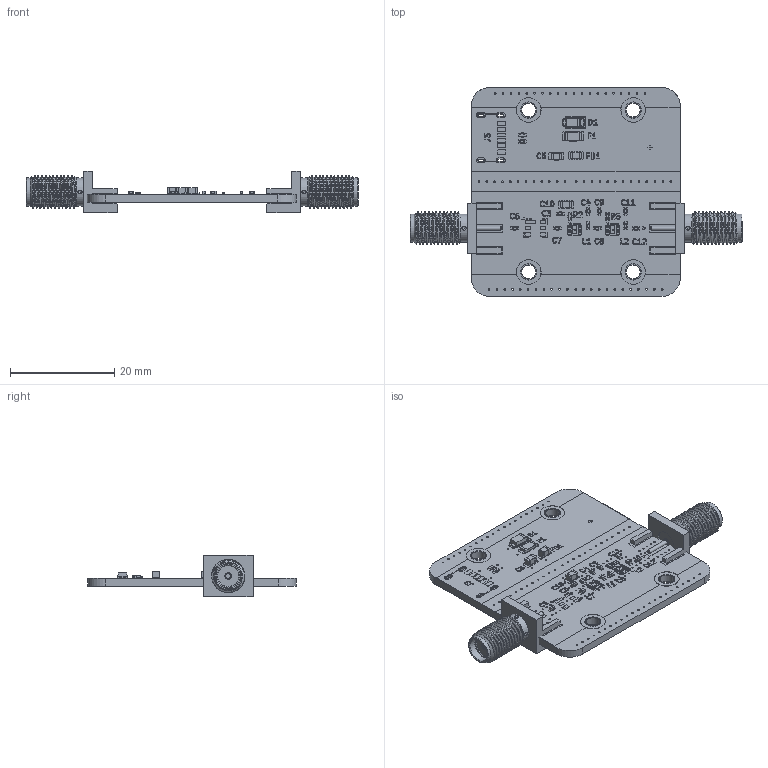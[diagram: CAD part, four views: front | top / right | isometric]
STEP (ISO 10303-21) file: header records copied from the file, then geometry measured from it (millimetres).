
FILE_DESCRIPTION(('KiCad electronic assembly'),'2;1');
FILE_NAME('.step','2026-04-18T22:23:29',('Pcbnew'),('Kicad'), 'Open CASCADE STEP processor 7.9','KiCad to STEP converter','Unknown' );
FILE_SCHEMA(('AUTOMOTIVE_DESIGN { 1 0 10303 214 1 1 1 1 }'));
Length unit declared in the file: millimetre
Products named in the file (13): .step 1; C_0402_1005Metric; C_0805_2012Metric; L_0402_1005Metric; Fuse_1206_3216Metric; R_0402_1005Metric; D_SMF; SMA_Amphenol_132289_EdgeMount; pre_filter_2stage_pad; pre_filter_2stage_silkscreen; pre_filter_2stage_soldermask; pre_filter_2stage_PCB
Assembly tree (26 placements, depth 2):
  .step 1
    C_0402_1005Metric  x8
    C_0805_2012Metric  x3
    L_0402_1005Metric  x2
    Fuse_1206_3216Metric
    R_0402_1005Metric  x4
    D_SMF
    SMA_Amphenol_132289_EdgeMount  x2
    pre_filter_2stage_pad
    pre_filter_2stage_silkscreen
    pre_filter_2stage_soldermask
    pre_filter_2stage_soldermask
    pre_filter_2stage_PCB
Bounding box: 63.58 x 40 x 7.92 mm (x, y, z)
Volume: 3219.3 mm3; surface area: 7529.1 mm2
Topology: 132 solids, 223 shells, 1949 faces, 6125 edges, 4580 vertices
Faces by surface type: plane 1086, cylinder 751, bspline 88, cone 16, sphere 8
Full cylindrical faces by diameter (mm): 0.25 x10, 0.3 x155, 0.76 x2, 0.97 x2, 1.27 x2, 2.65 x20, 2.7 x8, 3.1 x8, 4 x2, 4.2 x2, 4.597 x2, 4.7 x8, 5.385 x4, 6.35 x20
Entity records: 61768 total; most frequent: CARTESIAN_POINT 13658, DIRECTION 9515, ORIENTED_EDGE 8258, EDGE_CURVE 4943, VERTEX_POINT 3817, AXIS2_PLACEMENT_3D 3228, LINE 3059, VECTOR 3059
